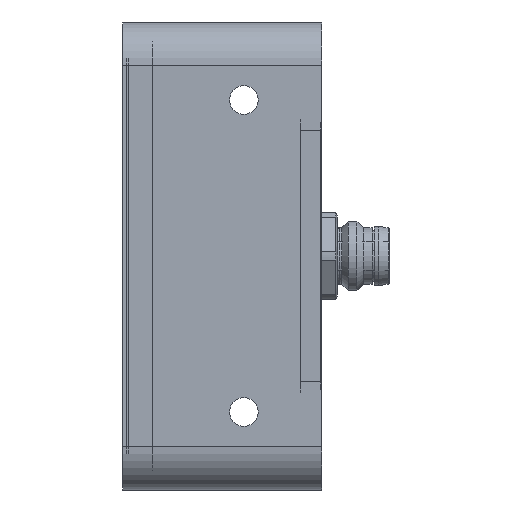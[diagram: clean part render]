
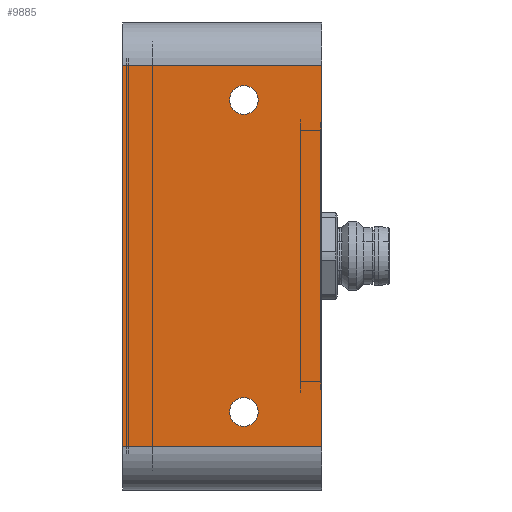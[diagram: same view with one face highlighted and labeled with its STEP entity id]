
A CAD part, left-side view. The second image highlights one B-rep face of the part: STEP entity #9885.
In plain terms, the highlighted planar face has unit normal (-1, 0, 0).
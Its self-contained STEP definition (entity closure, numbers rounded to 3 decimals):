
#283 = EDGE_CURVE ( 'NONE', #10894, #5771, #12496, .T. ) ;
#327 = CIRCLE ( 'NONE', #6643, 1.65 ) ;
#380 = DIRECTION ( 'NONE',  ( 0., 0., 1. ) ) ;
#405 = DIRECTION ( 'NONE',  ( 1., 0., 0. ) ) ;
#491 = DIRECTION ( 'NONE',  ( -1., 0., 0. ) ) ;
#1154 = ORIENTED_EDGE ( 'NONE', *, *, #3210, .F. ) ;
#1203 = FACE_BOUND ( 'NONE', #3235, .T. ) ;
#1641 = CARTESIAN_POINT ( 'NONE',  ( -155., 0., 27. ) ) ;
#1682 = DIRECTION ( 'NONE',  ( -1., 0., 0. ) ) ;
#1974 = CARTESIAN_POINT ( 'NONE',  ( -155., 0., 22. ) ) ;
#2160 = VERTEX_POINT ( 'NONE', #1974 ) ;
#3159 = FACE_OUTER_BOUND ( 'NONE', #4526, .T. ) ;
#3210 = EDGE_CURVE ( 'NONE', #8461, #8461, #7361, .T. ) ;
#3235 = EDGE_LOOP ( 'NONE', ( #1154 ) ) ;
#3238 = LINE ( 'NONE', #3580, #9223 ) ;
#3580 = CARTESIAN_POINT ( 'NONE',  ( -155., 0., 27. ) ) ;
#4050 = VERTEX_POINT ( 'NONE', #5334 ) ;
#4273 = CARTESIAN_POINT ( 'NONE',  ( -155., -14., 19.65 ) ) ;
#4465 = DIRECTION ( 'NONE',  ( 0., -1., 0. ) ) ;
#4526 = EDGE_LOOP ( 'NONE', ( #8954, #10695, #7176, #11053 ) ) ;
#4640 = LINE ( 'NONE', #9506, #12236 ) ;
#4649 = DIRECTION ( 'NONE',  ( 0., 0., -1. ) ) ;
#4876 = EDGE_LOOP ( 'NONE', ( #11162 ) ) ;
#5334 = CARTESIAN_POINT ( 'NONE',  ( -155., -14., -16.35 ) ) ;
#5424 = DIRECTION ( 'NONE',  ( 0., 0., -1. ) ) ;
#5771 = VERTEX_POINT ( 'NONE', #9818 ) ;
#6142 = EDGE_CURVE ( 'NONE', #10220, #2160, #3238, .T. ) ;
#6643 = AXIS2_PLACEMENT_3D ( 'NONE', #13066, #1682, #11034 ) ;
#6724 = AXIS2_PLACEMENT_3D ( 'NONE', #1641, #405, #4649 ) ;
#6764 = PLANE ( 'NONE',  #6724 ) ;
#7176 = ORIENTED_EDGE ( 'NONE', *, *, #283, .F. ) ;
#7272 = CARTESIAN_POINT ( 'NONE',  ( -155., 0., 22. ) ) ;
#7346 = CARTESIAN_POINT ( 'NONE',  ( -155., 0., -22. ) ) ;
#7361 = CIRCLE ( 'NONE', #12079, 1.65 ) ;
#8461 = VERTEX_POINT ( 'NONE', #4273 ) ;
#8812 = CARTESIAN_POINT ( 'NONE',  ( -155., -14., 18. ) ) ;
#8954 = ORIENTED_EDGE ( 'NONE', *, *, #6142, .F. ) ;
#9204 = EDGE_CURVE ( 'NONE', #10894, #2160, #12428, .T. ) ;
#9223 = VECTOR ( 'NONE', #380, 1000. ) ;
#9417 = DIRECTION ( 'NONE',  ( 0., 1., 0. ) ) ;
#9439 = VECTOR ( 'NONE', #5424, 1000. ) ;
#9506 = CARTESIAN_POINT ( 'NONE',  ( -155., 0., -22. ) ) ;
#9818 = CARTESIAN_POINT ( 'NONE',  ( -155., -23., -22. ) ) ;
#9885 = ADVANCED_FACE ( 'NONE', ( #1203, #12202, #3159 ), #6764, .F. ) ;
#10220 = VERTEX_POINT ( 'NONE', #7346 ) ;
#10695 = ORIENTED_EDGE ( 'NONE', *, *, #13143, .T. ) ;
#10892 = DIRECTION ( 'NONE',  ( 0., 0., 1. ) ) ;
#10894 = VERTEX_POINT ( 'NONE', #13015 ) ;
#11011 = VECTOR ( 'NONE', #9417, 1000. ) ;
#11034 = DIRECTION ( 'NONE',  ( 0., 0., 1. ) ) ;
#11053 = ORIENTED_EDGE ( 'NONE', *, *, #9204, .T. ) ;
#11162 = ORIENTED_EDGE ( 'NONE', *, *, #13345, .F. ) ;
#11641 = CARTESIAN_POINT ( 'NONE',  ( -155., -23., -22. ) ) ;
#12079 = AXIS2_PLACEMENT_3D ( 'NONE', #8812, #491, #10892 ) ;
#12202 = FACE_BOUND ( 'NONE', #4876, .T. ) ;
#12236 = VECTOR ( 'NONE', #4465, 1000. ) ;
#12428 = LINE ( 'NONE', #7272, #11011 ) ;
#12496 = LINE ( 'NONE', #11641, #9439 ) ;
#13015 = CARTESIAN_POINT ( 'NONE',  ( -155., -23., 22. ) ) ;
#13066 = CARTESIAN_POINT ( 'NONE',  ( -155., -14., -18. ) ) ;
#13143 = EDGE_CURVE ( 'NONE', #10220, #5771, #4640, .T. ) ;
#13345 = EDGE_CURVE ( 'NONE', #4050, #4050, #327, .T. ) ;
